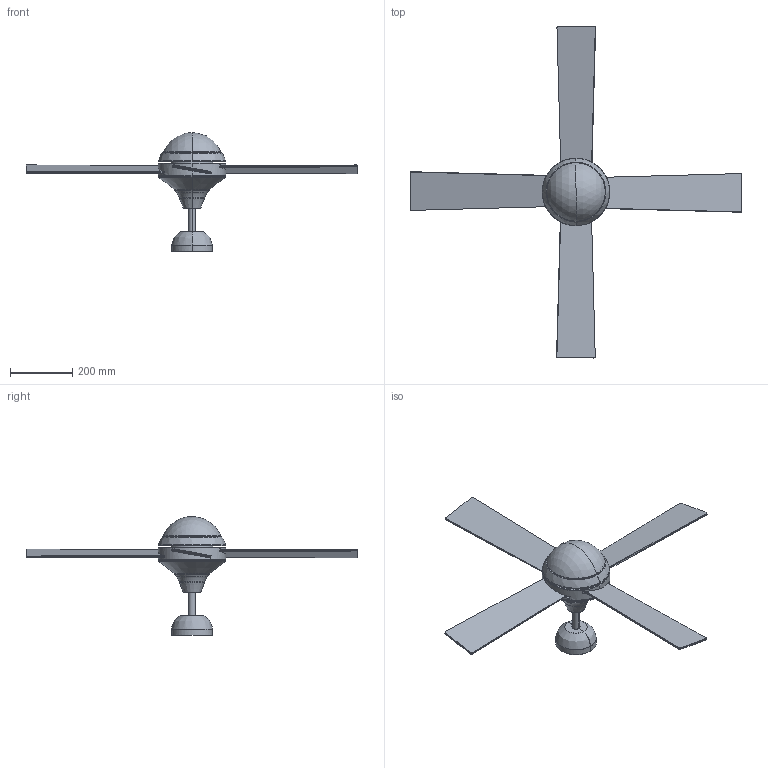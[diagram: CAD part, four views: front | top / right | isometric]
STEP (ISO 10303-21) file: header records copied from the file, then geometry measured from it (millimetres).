
FILE_DESCRIPTION(/* description */ (''),/* implementation_level */ '2;1');
FILE_NAME(/* name */ 'C:\Users\Franco Sartori E\Documents\FARO\DUPLICADO\Modelos\01_Digitalizados\0_ICARIA\03_Publicación\33696 - Vista 3D - {3D}.stp',/* time_stamp */ '2020-07-22T11:26:35+02:00',/* author */ ('Franco Sartori E'),/* organization */ (''),/* preprocessor_version */ 'ST-DEVELOPER v18',/* originating_system */ 'AutoCAD Mechanical',/* authorisation */ '');
FILE_SCHEMA (('AUTOMOTIVE_DESIGN { 1 0 10303 214 3 1 1 }'));
Length unit declared in the file: millimetre
Products named in the file (2): Product; 33695_33696_33697_33698_33699 - ICARIA-461224-_3D_
Assembly tree (1 placements, depth 2):
  Product
    33695_33696_33697_33698_33699 - ICARIA-461224-_3D_
Bounding box: 1070 x 1070.11 x 382.93 mm (x, y, z)
Volume: 2652312.5 mm3; surface area: 1499870.9 mm2
Topology: 14 solids, 14 shells, 320 faces, 786 edges, 480 vertices
Faces by surface type: plane 140, cylinder 94, torus 42, cone 28, bspline 12, sphere 4
Entity records: 12864 total; most frequent: CARTESIAN_POINT 5536, ORIENTED_EDGE 1572, DIRECTION 1450, EDGE_CURVE 786, AXIS2_PLACEMENT_3D 571, VERTEX_POINT 480, EDGE_LOOP 324, FACE_OUTER_BOUND 320
